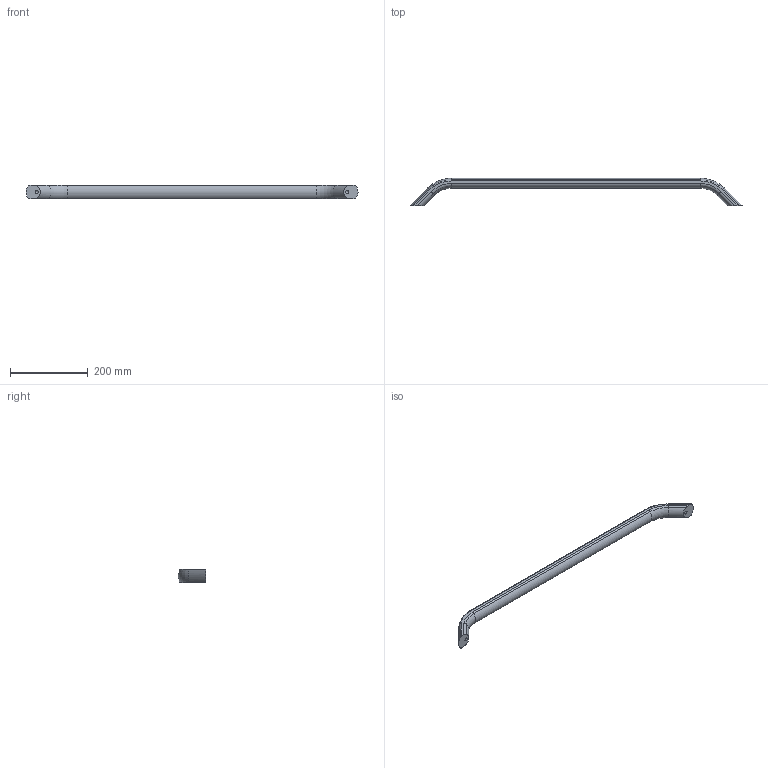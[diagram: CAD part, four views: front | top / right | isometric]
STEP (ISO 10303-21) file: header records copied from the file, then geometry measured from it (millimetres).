
FILE_DESCRIPTION( ( 'STEP AP203' ), '1' );
FILE_NAME( 'C:/Temp/Ganter_Step_05_03_2020/data/1_2/gn_428/gn_428_a/Cabinet U-handle GN 428-AL-36-800-A-SW.stp', '2020-03-05T10:11:32', ( 'License CC BY-ND 4.0' ), ( 'CADENAS' ), ' ', 'PARTsolutions', ' ' );
FILE_SCHEMA( ( 'CONFIG_CONTROL_DESIGN' ) );
Length unit declared in the file: millimetre
Products named in the file (1): _Cabinet U-handle GN 428-AL-36-800-A-SW
Bounding box: 854.73 x 70.91 x 36 mm (x, y, z)
Volume: 660879.5 mm3; surface area: 90728.4 mm2
Topology: 1 solids, 1 shells, 38 faces, 90 edges, 54 vertices
Faces by surface type: cylinder 20, torus 12, plane 4, cone 2
Full cylindrical faces by diameter (mm): 8.376 x2
Entity records: 1120 total; most frequent: DIRECTION 218, CARTESIAN_POINT 177, ORIENTED_EDGE 168, AXIS2_PLACEMENT_3D 95, EDGE_CURVE 84, VERTEX_POINT 54, CIRCLE 44, EDGE_LOOP 42
